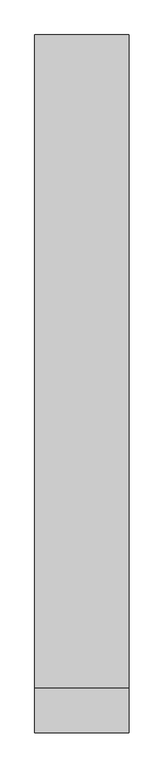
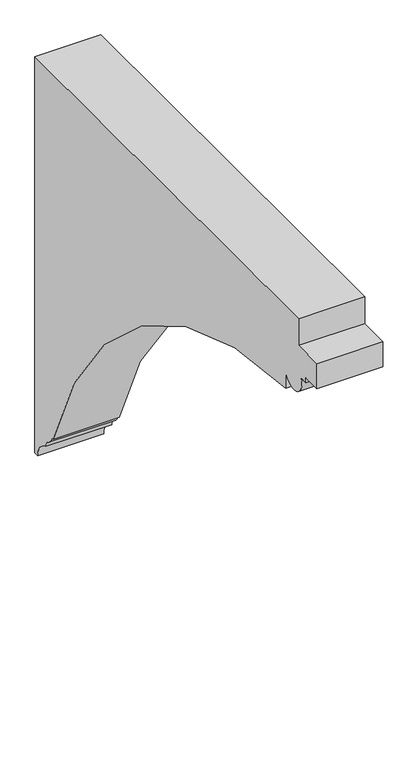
"""IFC4 building model written with IfcOpenShell, lengths in millimetres: beam geometry, mensole : mensole."""

import ifcopenshell
import ifcopenshell.guid

model = None  # the IFC model being written
_history = None  # IfcOwnerHistory: only IFC2X3 demands one
_inside = {}  # id of a spatial element -> (the spatial element, [elements in it])
_under = {}  # id of a project, library or spatial element -> (it, [spatial elements below it])
_declared = {}  # id of a project -> (the project, [libraries it declares])
_typed = {}  # id of a type object -> (the type object, [elements of that type])
_made_of = {}  # id of a material, layer set ... -> (it, [elements and type objects made of it])


def new_model(schema):
    """Start an empty IFC model of exactly this schema.

    Asked for "IFC4X3", IfcOpenShell would pick the latest addendum, in which some entities
    have other attributes; the version numbers below select the first issue.
    IFC2X3 requires an IfcOwnerHistory on every rooted entity: one is made here for all.
    """
    global model, _history
    if schema == "IFC4X3":
        model = ifcopenshell.file(schema_version=(4, 3, 0, 0))
    else:
        model = ifcopenshell.file(schema=schema)
    _inside.clear()
    _under.clear()
    _declared.clear()
    _typed.clear()
    _made_of.clear()
    _history = None
    if model.schema == "IFC2X3":
        org = make("IfcOrganization", Name="unknown")
        user = make(
            "IfcPersonAndOrganization",
            ThePerson=make("IfcPerson", FamilyName="unknown"),
            TheOrganization=org,
        )
        app = make(
            "IfcApplication",
            ApplicationDeveloper=org,
            Version="unknown",
            ApplicationFullName="unknown",
            ApplicationIdentifier="unknown",
        )
        _history = make(
            "IfcOwnerHistory",
            OwningUser=user,
            OwningApplication=app,
            ChangeAction="ADDED",
            CreationDate=0,
        )
    return model


def make(cls, **values):
    """One entity of the class cls with the attributes given. An attribute that is None is left unset."""
    return model.create_entity(
        cls, **{name: value for name, value in values.items() if value is not None}
    )


def rooted(cls, **values):
    """An entity with a GlobalId (a new one), such as an element, a storey or a relation."""
    return make(cls, GlobalId=ifcopenshell.guid.new(), OwnerHistory=_history, **values)


def si_unit(unit_type, name, prefix=None):
    """IfcSIUnit, for example si_unit("LENGTHUNIT", "METRE", prefix="MILLI")."""
    return make("IfcSIUnit", UnitType=unit_type, Prefix=prefix, Name=name)


def assignment(units):
    """IfcUnitAssignment: the units of a project."""
    return None if units is None else make("IfcUnitAssignment", Units=units)


def point(xyz):
    """IfcCartesianPoint."""
    return None if xyz is None else make("IfcCartesianPoint", Coordinates=xyz)


def direction(xyz):
    """IfcDirection."""
    return None if xyz is None else make("IfcDirection", DirectionRatios=xyz)


def frame(location, z_axis=None, x_axis=None):
    """IfcAxis2Placement3D, a coordinate frame: its origin and axes. An axis left out is left unset."""
    return make(
        "IfcAxis2Placement3D",
        Location=point(location),
        Axis=direction(z_axis),
        RefDirection=direction(x_axis),
    )


def frame_2d(location, x_axis=None):
    """IfcAxis2Placement2D, a coordinate frame in the plane: its origin and x axis."""
    return make(
        "IfcAxis2Placement2D", Location=point(location), RefDirection=direction(x_axis)
    )


def origin():
    """The frame at (0, 0, 0) with its axes left unset."""
    return frame((0.0, 0.0, 0.0))


def place(relative_to, where):
    """IfcLocalPlacement: puts the frame where relative to a parent placement (None: the world)."""
    return make(
        "IfcLocalPlacement", PlacementRelTo=relative_to, RelativePlacement=where
    )


def context(
    kind, dimensions, precision=None, world=None, true_north=None, identifier=None
):
    """IfcGeometricRepresentationContext, for example the 3D "Model" context."""
    return make(
        "IfcGeometricRepresentationContext",
        ContextIdentifier=identifier,
        ContextType=kind,
        CoordinateSpaceDimension=dimensions,
        Precision=precision,
        WorldCoordinateSystem=world,
        TrueNorth=true_north,
    )


def project(units=None, contexts=None):
    """IfcProject with its units and contexts."""
    return rooted(
        "IfcProject",
        Name="project",
        RepresentationContexts=contexts,
        UnitsInContext=assignment(units),
    )


def spatial(cls, under=None, at=None, **own):
    """A site, building, storey or space (cls), placed at a placement, below another one or the project."""
    s = rooted(cls, ObjectPlacement=at, **own)
    if under is not None:
        _under.setdefault(under.id(), (under, []))[1].append(s)
    return s


def polyline(points):
    """IfcPolyline through the points."""
    return make("IfcPolyline", Points=[point(p) for p in points])


def circle_curve(where, radius):
    """IfcCircle in the frame where."""
    return make("IfcCircle", Position=where, Radius=radius)


def trimmed(basis, trim1, trim2, sense, master):
    """IfcTrimmedCurve: the piece of a basis curve between two trims."""
    return make(
        "IfcTrimmedCurve",
        BasisCurve=basis,
        Trim1=trim1,
        Trim2=trim2,
        SenseAgreement=sense,
        MasterRepresentation=master,
    )


def segment(curve, same_sense, transition):
    """IfcCompositeCurveSegment."""
    return make(
        "IfcCompositeCurveSegment",
        Transition=transition,
        SameSense=same_sense,
        ParentCurve=curve,
    )


def composite_curve(segments, self_intersect=None):
    """IfcCompositeCurve: segments joined end to end."""
    return make("IfcCompositeCurve", Segments=segments, SelfIntersect=self_intersect)


def outline(outer, holes=None, kind="AREA"):
    """IfcArbitraryClosedProfileDef: a profile drawn as a closed curve; with holes, ...WithVoids."""
    if holes is None:
        return make("IfcArbitraryClosedProfileDef", ProfileType=kind, OuterCurve=outer)
    return make(
        "IfcArbitraryProfileDefWithVoids",
        ProfileType=kind,
        OuterCurve=outer,
        InnerCurves=holes,
    )


def extrude(swept, where, along, depth):
    """IfcExtrudedAreaSolid: the profile swept, set in the frame where, extruded along a direction by depth."""
    return make(
        "IfcExtrudedAreaSolid",
        SweptArea=swept,
        Position=where,
        ExtrudedDirection=direction(along),
        Depth=depth,
    )


def shape(context_of_items, identifier, shape_type, items):
    """IfcShapeRepresentation: the items that make up one representation, for example the "Body"."""
    return make(
        "IfcShapeRepresentation",
        ContextOfItems=context_of_items,
        RepresentationIdentifier=identifier,
        RepresentationType=shape_type,
        Items=items,
    )


def source(mapping_origin, context_of_items, identifier, shape_type, items):
    """IfcRepresentationMap: a shape defined once, which mapped items show again and again."""
    return make(
        "IfcRepresentationMap",
        MappingOrigin=mapping_origin,
        MappedRepresentation=shape(context_of_items, identifier, shape_type, items),
    )


def transform(
    local_origin,
    x_axis=None,
    y_axis=None,
    z_axis=None,
    scale=None,
    scale2=None,
    scale3=None,
    uniform=True,
):
    """IfcCartesianTransformationOperator3D, or its non-uniform kind. x_axis, y_axis, z_axis: its Axis1, 2, 3."""
    if uniform:
        return make(
            "IfcCartesianTransformationOperator3D",
            Axis1=direction(x_axis),
            Axis2=direction(y_axis),
            LocalOrigin=point(local_origin),
            Scale=scale,
            Axis3=direction(z_axis),
        )
    return make(
        "IfcCartesianTransformationOperator3DnonUniform",
        Axis1=direction(x_axis),
        Axis2=direction(y_axis),
        LocalOrigin=point(local_origin),
        Scale=scale,
        Axis3=direction(z_axis),
        Scale2=scale2,
        Scale3=scale3,
    )


def mapped(mapping_source, mapping_target):
    """IfcMappedItem: shows the shape of a source again, moved by a transform."""
    return make(
        "IfcMappedItem", MappingSource=mapping_source, MappingTarget=mapping_target
    )


def made_of(thing, what):
    """Note that an element or type object is made of a material, layer set ...; save() writes the relation."""
    if what is not None:
        _made_of.setdefault(what.id(), (what, []))[1].append(thing)
    return thing


def element(
    cls,
    number,
    at=None,
    inside=None,
    cuts=None,
    type_object=None,
    material=None,
    context=None,
    identifier="Body",
    shape_type=None,
    held_by="IfcProductDefinitionShape",
    body=None,
    shapes=None,
    **own,
):
    """One element of the class cls, such as IfcWall. Its Tag is "e" and its number.

    at: its placement. inside: the storey or other place that contains it. cuts: it is an
    opening in that element (IfcRelVoidsElement). A single representation is given by context,
    identifier, shape_type and body (its items); several are given by shapes. held_by: the class
    of the entity that holds the representations. save() writes the other relations.
    """
    e = rooted(cls, Tag="e%d" % number, ObjectPlacement=at, **own)
    if body is not None:
        shapes = [shape(context, identifier, shape_type, body)]
    if shapes is not None:
        e.Representation = make(held_by, Representations=shapes)
    if inside is not None:
        _inside.setdefault(inside.id(), (inside, []))[1].append(e)
    if cuts is not None:
        rooted(
            "IfcRelVoidsElement", RelatingBuildingElement=cuts, RelatedOpeningElement=e
        )
    if type_object is not None:
        _typed.setdefault(type_object.id(), (type_object, []))[1].append(e)
    return made_of(e, material)


def aggregate(whole, parts):
    """IfcRelAggregates: a whole, such as a stair, and the parts it consists of."""
    return rooted("IfcRelAggregates", RelatingObject=whole, RelatedObjects=parts)


def save(model, path):
    """Write the relations noted so far, then the file.

    IfcRelAggregates (storeys below a building ...), IfcRelContainedInSpatialStructure (elements
    in a storey), IfcRelDefinesByType, IfcRelAssociatesMaterial and IfcRelDeclares: one each for
    every whole, place, type object, material and project.
    """
    for whole, parts in _under.values():
        aggregate(whole, parts)
    for where, things in _inside.values():
        rooted(
            "IfcRelContainedInSpatialStructure",
            RelatedElements=things,
            RelatingStructure=where,
        )
    for kind, things in _typed.values():
        rooted("IfcRelDefinesByType", RelatedObjects=things, RelatingType=kind)
    for what, things in _made_of.values():
        rooted("IfcRelAssociatesMaterial", RelatedObjects=things, RelatingMaterial=what)
    for by, libraries in _declared.values():
        rooted("IfcRelDeclares", RelatingContext=by, RelatedDefinitions=libraries)
    model.write(path)


def beam_37fe69ae(model_context):
    return source(origin(), model_context, "Body", "SweptSolid", [
        extrude(outline(composite_curve([segment(trimmed(circle_curve(frame_2d((24082.2436131, -6161.9318168)), 1643.2182464), [point((25643.3920265, -5649.1142696))], [point((24117.5135392, -4519.0921296))], True, "CARTESIAN"), True, "CONTINUOUS"), segment(polyline([(24117.5135392, -4519.0921296), (24117.5135392, -4438.335738)]), True, "CONTINUOUS"), segment(trimmed(circle_curve(frame_2d((24064.3999141, -4438.335738)), 53.1136251), [point((24117.5135392, -4438.335738))], [point((24015.8461449, -4416.8046286))], False, "CARTESIAN"), True, "CONTINUOUS"), segment(polyline([(24015.8461449, -4416.8046286), (23984.7008081, -4416.8046286), (23984.7008081, -4396.8046286), (23913.3920265, -4396.8046286), (23913.3920265, -4296.8046286), (24033.3920265, -4296.8046286), (24033.3920265, -4190.0), (25763.3893107, -4190.0), (25763.3893107, -5776.8046286), (25746.2950816, -5776.8046286)]), True, "CONTINUOUS"), segment(trimmed(circle_curve(frame_2d((25669.1759258, -5781.2181855)), 77.2453472), [point((25746.2950816, -5776.8046286))], [point((25693.0663371, -5707.7600892))], True, "CARTESIAN"), True, "CONTINUOUS"), segment(trimmed(circle_curve(frame_2d((25657.2374049, -5710.7423835)), 35.9528367), [point((25693.0663371, -5707.7600892))], [point((25675.5418456, -5679.7980154))], True, "CARTESIAN"), True, "CONTINUOUS"), segment(trimmed(circle_curve(frame_2d((25689.830292, -5646.1469782)), 36.5588841), [point((25675.5418456, -5679.7980154))], [point((25653.3920265, -5649.1142696))], False, "CARTESIAN"), True, "CONTINUOUS"), segment(polyline([(25653.3920265, -5649.1142696), (25643.3920265, -5649.1142696)]), True, "CONTINUOUS")], self_intersect=False)), frame((53647.3573777, 0.0, 0.0), z_axis=(1.0, 0.0, 0.0), x_axis=(0.0, 1.0, 0.0)), (0.0, 0.0, 1.0), 250.0),
    ])


if __name__ == "__main__":
    model = new_model("IFC4")
    model_context = context("Model", 3, world=origin())
    ifc_project = project(units=[si_unit("LENGTHUNIT", "METRE", prefix="MILLI")], contexts=[model_context])
    site = spatial("IfcSite", under=ifc_project)
    building = spatial("IfcBuilding", under=site)
    placement = place(None, origin())
    beam_shape = beam_37fe69ae(model_context)
    element("IfcBeam", 1, ObjectType="mensole : mensole", at=placement, inside=building, context=model_context, shape_type="MappedRepresentation", body=[
        mapped(beam_shape, transform((0.0, 0.0, 0.0), x_axis=(1.0, 0.0, 0.0), y_axis=(0.0, 1.0, 0.0), z_axis=(0.0, 0.0, 1.0))),
    ])
    save(model, "model.ifc")
